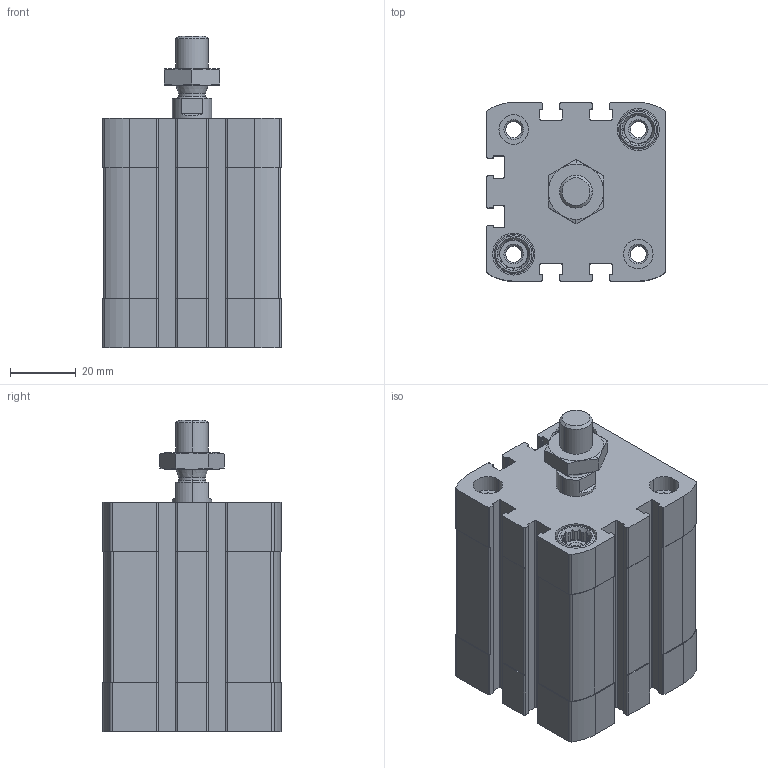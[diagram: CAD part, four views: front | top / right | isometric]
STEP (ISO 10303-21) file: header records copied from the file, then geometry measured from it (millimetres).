
FILE_DESCRIPTION (( 'STEP AP203' ), '1' );
FILE_NAME ('CCN40-25M.STEP', '2017-04-03T11:27:04', ( '' ), ( '' ), 'SwSTEP 2.0', 'SolidWorks 2016', '' );
FILE_SCHEMA (( 'CONFIG_CONTROL_DESIGN' ));
Length unit declared in the file: millimetre
Products named in the file (4): CCN-25---(Z); CCN-25_(KS); _DIN-439-B - M10x1.25(F); CCN40-25M
Assembly tree (3 placements, depth 2):
  CCN40-25M
    CCN-25---(Z)
    CCN-25_(KS)
    _DIN-439-B - M10x1.25(F)
Bounding box: 54.5 x 54.5 x 95.1 mm (x, y, z)
Volume: 154159.7 mm3; surface area: 47681.3 mm2
Topology: 3 solids, 3 shells, 499 faces, 1332 edges, 870 vertices
Faces by surface type: plane 275, cylinder 172, cone 48, bspline 4
Entity records: 16226 total; most frequent: CARTESIAN_POINT 3115, DIRECTION 2716, ORIENTED_EDGE 2664, EDGE_CURVE 1332, AXIS2_PLACEMENT_3D 995, VERTEX_POINT 870, VECTOR 726, LINE 726
